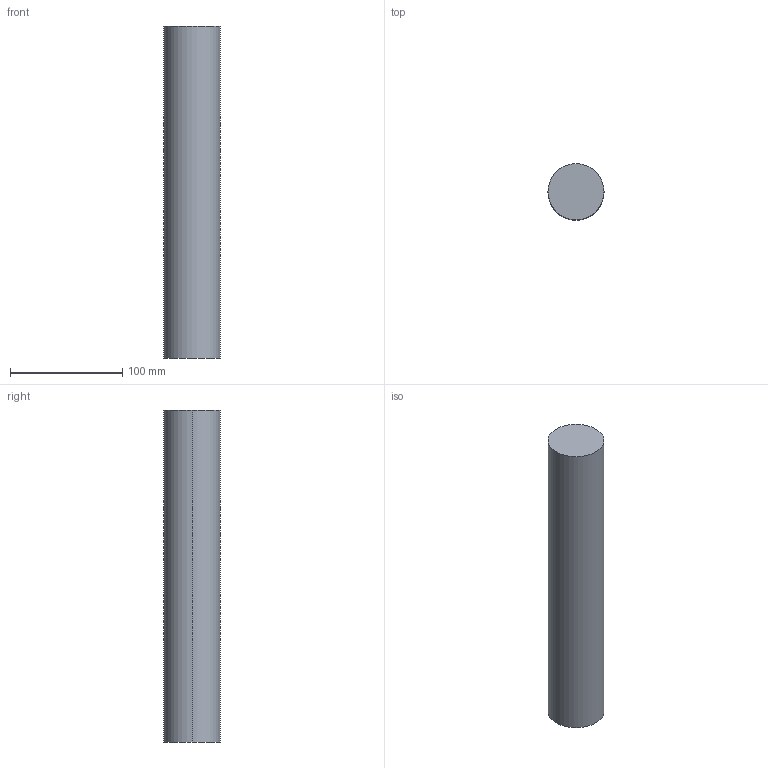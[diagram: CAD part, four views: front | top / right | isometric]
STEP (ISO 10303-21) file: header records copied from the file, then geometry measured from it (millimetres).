
FILE_DESCRIPTION (( 'STEP AP203' ), '1' );
FILE_NAME ('ƒpƒCƒv500.STEP', '2022-05-30T00:48:16', ( '' ), ( '' ), 'SwSTEP 2.0', 'SolidWorks 2017', '' );
FILE_SCHEMA (( 'CONFIG_CONTROL_DESIGN' ));
Length unit declared in the file: millimetre
Products named in the file (1): パイプ500
Bounding box: 50 x 50 x 296 mm (x, y, z)
Volume: 581194.6 mm3; surface area: 50422.6 mm2
Topology: 1 solids, 1 shells, 4 faces, 6 edges, 4 vertices
Faces by surface type: cylinder 2, plane 2
Entity records: 171 total; most frequent: DIRECTION 20, CARTESIAN_POINT 15, ORIENTED_EDGE 12, AXIS2_PLACEMENT_3D 9, PERSON_AND_ORGANIZATION 8, EDGE_CURVE 6, DATE_AND_TIME 5, CC_DESIGN_PERSON_AND_ORGANIZATION_ASSIGNMENT 5
